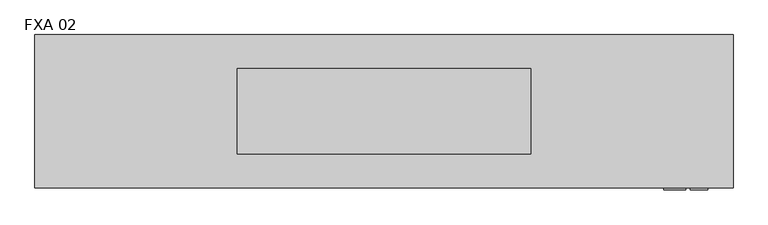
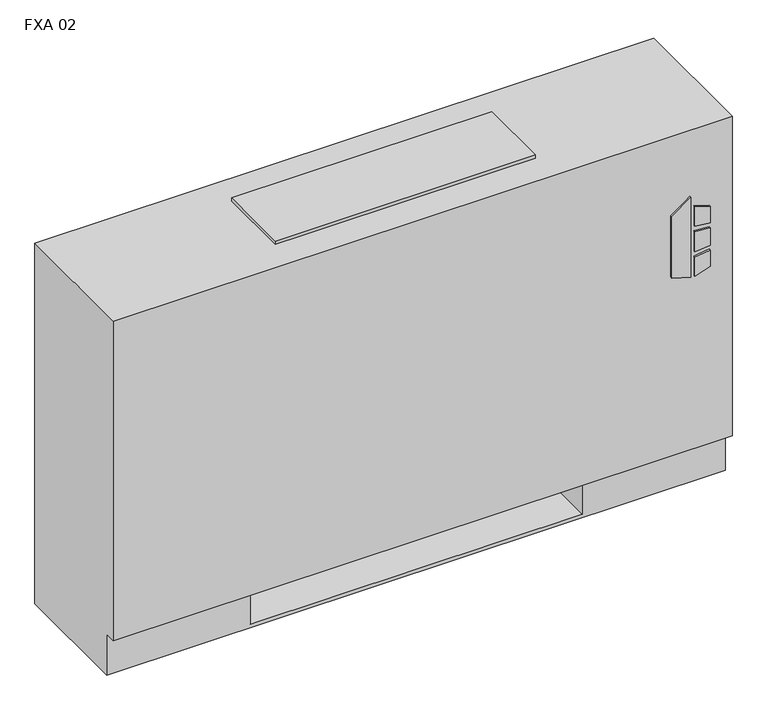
"""IFC4 building model written with IfcOpenShell, lengths in millimetres: proxy geometry, Vertical_Fan_Coil_Unit_-_FXA_-_IEC_-_4-Pipe_TS-FR_RH_2022 : FXA 02."""

from ifc_helpers import new_model, si_unit, point, frame, frame_2d, origin, place, context, project, spatial, polyline, circle_curve, trimmed, segment, composite_curve, outline, extrude, source, transform, mapped, element, save
from ifc_brep_helpers import plane_surface, revolved_surface, advanced_brep


def fxa_02_c29b171d(model_context):
    return source(origin(), model_context, "Body", "SolidModel", [
        extrude(outline(polyline([(391.6086829, 569.9868862), (381.6606126, 602.1602728), (523.831537, 602.1602728), (500.8095309, 569.9868862), (391.6086829, 569.9868862)])), frame((0.0, 12.7, 0.0), z_axis=(0.0, 1.0, 0.0), x_axis=(0.0, 0.0, 1.0)), (0.0, 0.0, 1.0), 3.175),
        extrude(outline(polyline([(470.6079683, 608.9186058), (467.4055757, 635.0), (496.6344168, 635.0), (504.6988318, 608.9186058), (470.6079683, 608.9186058)])), frame((0.0, 12.7, 0.0), z_axis=(0.0, 1.0, 0.0), x_axis=(0.0, 0.0, 1.0)), (0.0, 0.0, 1.0), 3.175),
        extrude(outline(polyline([(418.7444414, 635.0), (415.0789404, 608.9186058), (381.6606126, 608.9186058), (390.2948498, 635.0), (418.7444414, 635.0)])), frame((0.0, 12.7, 0.0), z_axis=(0.0, 1.0, 0.0), x_axis=(0.0, 0.0, 1.0)), (0.0, 0.0, 1.0), 3.175),
        extrude(outline(polyline([(458.0596028, 635.0), (460.3414292, 608.9186058), (424.4038806, 608.9186058), (427.1451456, 635.0), (458.0596028, 635.0)])), frame((0.0, 12.7, 0.0), z_axis=(0.0, 1.0, 0.0), x_axis=(0.0, 0.0, 1.0)), (0.0, 0.0, 1.0), 3.175),
        extrude(outline(polyline([(-247.65, 81.534), (-247.65, 223.266), (-127.0, 223.266), (-127.0, 81.534), (-247.65, 81.534)])), frame((0.0, 0.0, 327.025), z_axis=(0.0, 0.0, 1.0), x_axis=(1.0, 0.0, 0.0)), (0.0, 0.0, 1.0), 260.35),
        extrude(outline(composite_curve([segment(trimmed(circle_curve(frame_2d((495.3, 130.175)), 9.525), [point((485.775, 130.175))], [point((504.825, 130.175))], False, "CARTESIAN"), True, "CONTINUOUS"), segment(trimmed(circle_curve(frame_2d((495.3, 130.175)), 9.525), [point((504.825, 130.175))], [point((485.775, 130.175))], False, "CARTESIAN"), True, "CONTINUOUS")], self_intersect=False)), frame((0.0, 0.0, 101.6), z_axis=(0.0, 0.0, 1.0), x_axis=(1.0, 0.0, 0.0)), (0.0, 0.0, 1.0), 25.4),
        extrude(outline(polyline([(590.55, 196.85), (590.55, 63.5), (431.8, 63.5), (431.8, 196.85), (590.55, 196.85)])), frame((0.0, 0.0, 127.0), z_axis=(0.0, 0.0, 1.0), x_axis=(1.0, 0.0, 0.0)), (0.0, 0.0, 1.0), 50.8),
        extrude(outline(composite_curve([segment(trimmed(circle_curve(frame_2d((117.475, 472.44)), 7.9375), [point((117.475, 480.3775))], [point((117.475, 464.5025))], False, "CARTESIAN"), True, "CONTINUOUS"), segment(trimmed(circle_curve(frame_2d((117.475, 472.44)), 7.9375), [point((117.475, 464.5025))], [point((117.475, 480.3775))], False, "CARTESIAN"), True, "CONTINUOUS")], self_intersect=False)), frame((431.8, 0.0, 0.0), z_axis=(1.0, 0.0, 0.0), x_axis=(0.0, 1.0, 0.0)), (0.0, 0.0, 1.0), 50.8),
        extrude(outline(composite_curve([segment(trimmed(circle_curve(frame_2d((164.0586, 445.897)), 7.9375), [point((164.0586, 453.8345))], [point((164.0586, 437.9595))], False, "CARTESIAN"), True, "CONTINUOUS"), segment(trimmed(circle_curve(frame_2d((164.0586, 445.897)), 7.9375), [point((164.0586, 437.9595))], [point((164.0586, 453.8345))], False, "CARTESIAN"), True, "CONTINUOUS")], self_intersect=False)), frame((431.8, 0.0, 0.0), z_axis=(1.0, 0.0, 0.0), x_axis=(0.0, 1.0, 0.0)), (0.0, 0.0, 1.0), 50.8),
        extrude(outline(composite_curve([segment(trimmed(circle_curve(frame_2d((130.175, 554.99)), 7.9502), [point((130.175, 562.9402))], [point((130.175, 547.0398))], False, "CARTESIAN"), True, "CONTINUOUS"), segment(trimmed(circle_curve(frame_2d((130.175, 554.99)), 7.9502), [point((130.175, 547.0398))], [point((130.175, 562.9402))], False, "CARTESIAN"), True, "CONTINUOUS")], self_intersect=False)), frame((431.8, 0.0, 0.0), z_axis=(1.0, 0.0, 0.0), x_axis=(0.0, 1.0, 0.0)), (0.0, 0.0, 1.0), 50.8),
        extrude(outline(composite_curve([segment(trimmed(circle_curve(frame_2d((53.975, 416.56)), 7.9502), [point((53.975, 424.5102))], [point((53.975, 408.6098))], False, "CARTESIAN"), True, "CONTINUOUS"), segment(trimmed(circle_curve(frame_2d((53.975, 416.56)), 7.9502), [point((53.975, 408.6098))], [point((53.975, 424.5102))], False, "CARTESIAN"), True, "CONTINUOUS")], self_intersect=False)), frame((431.8, 0.0, 0.0), z_axis=(1.0, 0.0, 0.0), x_axis=(0.0, 1.0, 0.0)), (0.0, 0.0, 1.0), 50.8),
        advanced_brep(
        [(673.1, 244.475, 641.35), (-368.3, 244.475, 641.35), (-368.3, 15.875, 641.35), (673.1, 15.875, 641.35), (-368.3, 244.475, 0.0), (673.1, 244.475, 0.0), (673.1, 34.925, 0.0), (-368.3, 34.925, 0.0), (431.8, 244.475, 73.025), (660.4, 244.475, 73.025), (660.4, 244.475, 628.65), (431.8, 244.475, 628.65), (431.8, 244.475, 414.8650565), (460.375, 244.475, 414.8650565), (460.375, 244.475, 385.2349435), (431.8, 244.475, 385.2349435), (431.8, 244.475, 287.3375), (460.375, 244.475, 287.3375), (460.375, 244.475, 258.7625), (431.8, 244.475, 258.7625), (431.8, 244.475, 141.2875), (460.375, 244.475, 141.2875), (460.375, 244.475, 112.7125), (431.8, 244.475, 112.7125), (-127.0, 244.475, 628.65), (-355.6, 244.475, 628.65), (-355.6, 244.475, 73.025), (-127.0, 244.475, 73.025), (-127.0, 244.475, 112.7125), (-155.575, 244.475, 112.7125), (-155.575, 244.475, 141.2875), (-127.0, 244.475, 141.2875), (-127.0, 244.475, 258.7625), (-155.575, 244.475, 258.7625), (-155.575, 244.475, 287.3375), (-127.0, 244.475, 287.3375), (-127.0, 244.475, 385.2349435), (-155.575, 244.475, 385.2349435), (-155.575, 244.475, 414.8650565), (-127.0, 244.475, 414.8650565), (450.0626, 244.475, 127.0), (438.9374, 244.475, 127.0), (450.0626, 244.475, 400.05), (438.9374, 244.475, 400.05), (450.0626, 244.475, 273.05), (438.9374, 244.475, 273.05), (-134.1374, 244.475, 127.0), (-145.2626, 244.475, 127.0), (-134.1374, 244.475, 273.05), (-145.2626, 244.475, 273.05), (-134.1374, 244.475, 400.05), (-145.2626, 244.475, 400.05), (-368.3, 34.925, 73.025), (-368.3, 15.875, 73.025), (673.1, 15.875, 73.025), (673.1, 34.925, 73.025), (-127.0, 34.925, 73.025), (-127.0, 219.075, 73.025), (431.8, 219.075, 73.025), (431.8, 34.925, 73.025), (431.8, 34.925, 6.35), (-127.0, 34.925, 6.35), (431.8, 41.275, 628.65), (660.4, 41.275, 628.65), (660.4, 41.275, 73.025), (431.8, 41.275, 73.025), (-127.0, 41.275, 628.65), (-127.0, 41.275, 73.025), (-355.6, 41.275, 73.025), (-355.6, 41.275, 628.65), (431.8, 219.075, 73.025), (431.8, 238.125, 112.7125), (431.8, 238.125, 141.2875), (431.8, 238.125, 258.7625), (431.8, 238.125, 287.3375), (431.8, 238.125, 385.2349435), (431.8, 238.125, 414.8650565), (-127.0, 219.075, 73.025), (-127.0, 238.125, 414.8650565), (-127.0, 238.125, 385.2349435), (-127.0, 238.125, 287.3375), (-127.0, 238.125, 258.7625), (-127.0, 238.125, 141.2875), (-127.0, 238.125, 112.7125), (-127.0, 219.075, 6.35), (431.8, 219.075, 6.35), (460.375, 238.125, 112.7125), (460.375, 238.125, 141.2875), (438.9374, 238.125, 127.0), (450.0626, 238.125, 127.0), (460.375, 238.125, 258.7625), (460.375, 238.125, 287.3375), (438.9374, 238.125, 273.05), (450.0626, 238.125, 273.05), (460.375, 238.125, 385.2349435), (460.375, 238.125, 414.8650565), (438.9374, 238.125, 400.05), (450.0626, 238.125, 400.05), (-155.575, 238.125, 141.2875), (-155.575, 238.125, 112.7125), (-145.2626, 238.125, 127.0), (-134.1374, 238.125, 127.0), (-155.575, 238.125, 287.3375), (-155.575, 238.125, 258.7625), (-145.2626, 238.125, 273.05), (-134.1374, 238.125, 273.05), (-155.575, 238.125, 414.8650565), (-155.575, 238.125, 385.2349435), (-145.2626, 238.125, 400.05), (-134.1374, 238.125, 400.05)],
        [
            (0, 1),
            (1, 2),
            (2, 3),
            (3, 0),
            (4, 5),
            (5, 6),
            (6, 7),
            (7, 4),
            (0, 5),
            (4, 1),
            (8, 9),
            (9, 10),
            (10, 11),
            (11, 12),
            (12, 13),
            (13, 14),
            (14, 15),
            (15, 16),
            (16, 17),
            (17, 18),
            (18, 19),
            (19, 20),
            (20, 21),
            (21, 22),
            (22, 23),
            (23, 8),
            (24, 25),
            (25, 26),
            (26, 27),
            (27, 28),
            (28, 29),
            (29, 30),
            (30, 31),
            (31, 32),
            (32, 33),
            (33, 34),
            (34, 35),
            (35, 36),
            (36, 37),
            (37, 38),
            (38, 39),
            (39, 24),
            (40, 41, circle_curve(frame((444.5, 244.475, 127.0), z_axis=(0.0, -1.0, 0.0), x_axis=(-1.0, 0.0, 0.0)), 5.5626)),
            (41, 40, circle_curve(frame((444.5, 244.475, 127.0), z_axis=(0.0, -1.0, 0.0), x_axis=(-1.0, 0.0, 0.0)), 5.5626)),
            (42, 43, circle_curve(frame((444.5, 244.475, 400.05), z_axis=(0.0, -1.0, 0.0), x_axis=(-1.0, 0.0, 0.0)), 5.5626)),
            (43, 42, circle_curve(frame((444.5, 244.475, 400.05), z_axis=(0.0, -1.0, 0.0), x_axis=(-1.0, 0.0, 0.0)), 5.5626)),
            (44, 45, circle_curve(frame((444.5, 244.475, 273.05), z_axis=(0.0, -1.0, 0.0), x_axis=(-1.0, 0.0, 0.0)), 5.5626)),
            (45, 44, circle_curve(frame((444.5, 244.475, 273.05), z_axis=(0.0, -1.0, 0.0), x_axis=(-1.0, 0.0, 0.0)), 5.5626)),
            (46, 47, circle_curve(frame((-139.7, 244.475, 127.0), z_axis=(0.0, -1.0, 0.0), x_axis=(-1.0, 0.0, 0.0)), 5.5626)),
            (47, 46, circle_curve(frame((-139.7, 244.475, 127.0), z_axis=(0.0, -1.0, 0.0), x_axis=(-1.0, 0.0, 0.0)), 5.5626)),
            (48, 49, circle_curve(frame((-139.7, 244.475, 273.05), z_axis=(0.0, -1.0, 0.0), x_axis=(-1.0, 0.0, 0.0)), 5.5626)),
            (49, 48, circle_curve(frame((-139.7, 244.475, 273.05), z_axis=(0.0, -1.0, 0.0), x_axis=(-1.0, 0.0, 0.0)), 5.5626)),
            (50, 51, circle_curve(frame((-139.7, 244.475, 400.05), z_axis=(0.0, -1.0, 0.0), x_axis=(-1.0, 0.0, 0.0)), 5.5626)),
            (51, 50, circle_curve(frame((-139.7, 244.475, 400.05), z_axis=(0.0, -1.0, 0.0), x_axis=(-1.0, 0.0, 0.0)), 5.5626)),
            (7, 52),
            (52, 53),
            (53, 2),
            (53, 54),
            (54, 3),
            (54, 55),
            (55, 6),
            (52, 56),
            (56, 57),
            (57, 58),
            (58, 59),
            (59, 55),
            (59, 60),
            (60, 61),
            (61, 56),
            (62, 63),
            (63, 64),
            (64, 65),
            (65, 62),
            (66, 67),
            (67, 68),
            (68, 69),
            (69, 66),
            (65, 70),
            (70, 8),
            (23, 71),
            (71, 72),
            (72, 20),
            (19, 73),
            (73, 74),
            (74, 16),
            (15, 75),
            (75, 76),
            (76, 12),
            (11, 62),
            (64, 9),
            (63, 10),
            (69, 25),
            (24, 66),
            (68, 26),
            (67, 77),
            (77, 27),
            (39, 78),
            (78, 79),
            (79, 36),
            (35, 80),
            (80, 81),
            (81, 32),
            (31, 82),
            (82, 83),
            (83, 28),
            (57, 84),
            (84, 85),
            (85, 58),
            (85, 60),
            (84, 61),
            (71, 86),
            (86, 87),
            (87, 72),
            (88, 89, circle_curve(frame((444.5, 238.125, 127.0), z_axis=(0.0, 1.0, 0.0), x_axis=(-1.0, 0.0, 0.0)), 5.5626)),
            (89, 88, circle_curve(frame((444.5, 238.125, 127.0), z_axis=(0.0, 1.0, 0.0), x_axis=(-1.0, 0.0, 0.0)), 5.5626)),
            (73, 90),
            (90, 91),
            (91, 74),
            (92, 93, circle_curve(frame((444.5, 238.125, 273.05), z_axis=(0.0, 1.0, 0.0), x_axis=(-1.0, 0.0, 0.0)), 5.5626)),
            (93, 92, circle_curve(frame((444.5, 238.125, 273.05), z_axis=(0.0, 1.0, 0.0), x_axis=(-1.0, 0.0, 0.0)), 5.5626)),
            (75, 94),
            (94, 95),
            (95, 76),
            (96, 97, circle_curve(frame((444.5, 238.125, 400.05), z_axis=(0.0, 1.0, 0.0), x_axis=(-1.0, 0.0, 0.0)), 5.5626)),
            (97, 96, circle_curve(frame((444.5, 238.125, 400.05), z_axis=(0.0, 1.0, 0.0), x_axis=(-1.0, 0.0, 0.0)), 5.5626)),
            (98, 99),
            (99, 83),
            (82, 98),
            (100, 101, circle_curve(frame((-139.7, 238.125, 127.0), z_axis=(0.0, 1.0, 0.0), x_axis=(-1.0, 0.0, 0.0)), 5.5626)),
            (101, 100, circle_curve(frame((-139.7, 238.125, 127.0), z_axis=(0.0, 1.0, 0.0), x_axis=(-1.0, 0.0, 0.0)), 5.5626)),
            (102, 103),
            (103, 81),
            (80, 102),
            (104, 105, circle_curve(frame((-139.7, 238.125, 273.05), z_axis=(0.0, 1.0, 0.0), x_axis=(-1.0, 0.0, 0.0)), 5.5626)),
            (105, 104, circle_curve(frame((-139.7, 238.125, 273.05), z_axis=(0.0, 1.0, 0.0), x_axis=(-1.0, 0.0, 0.0)), 5.5626)),
            (106, 107),
            (107, 79),
            (78, 106),
            (108, 109, circle_curve(frame((-139.7, 238.125, 400.05), z_axis=(0.0, 1.0, 0.0), x_axis=(-1.0, 0.0, 0.0)), 5.5626)),
            (109, 108, circle_curve(frame((-139.7, 238.125, 400.05), z_axis=(0.0, 1.0, 0.0), x_axis=(-1.0, 0.0, 0.0)), 5.5626)),
            (87, 21),
            (86, 22),
            (91, 17),
            (90, 18),
            (95, 13),
            (94, 14),
            (30, 98),
            (99, 29),
            (34, 102),
            (103, 33),
            (38, 106),
            (107, 37),
            (88, 41),
            (40, 89),
            (96, 43),
            (42, 97),
            (92, 45),
            (44, 93),
            (100, 47),
            (46, 101),
            (104, 49),
            (48, 105),
            (108, 51),
            (50, 109),
        ],
        [
            plane_surface(frame((-368.3, 244.475, 641.35), z_axis=(0.0, 0.0, 1.0), x_axis=(-1.0, 0.0, 0.0))),
            plane_surface(frame((-368.3, 244.475, 0.0), z_axis=(0.0, 0.0, -1.0), x_axis=(1.0, 0.0, 0.0))),
            plane_surface(frame((673.1, 244.475, 641.35), z_axis=(0.0, 1.0, 0.0), x_axis=(0.0, 0.0, -1.0))),
            plane_surface(frame((-368.3, 244.475, 641.35), z_axis=(-1.0, 0.0, 0.0), x_axis=(0.0, 0.0, -1.0))),
            plane_surface(frame((-368.3, 15.875, 641.35), z_axis=(0.0, -1.0, 0.0), x_axis=(0.0, 0.0, -1.0))),
            plane_surface(frame((673.1, 15.875, 641.35), z_axis=(1.0, 0.0, 0.0), x_axis=(0.0, 0.0, -1.0))),
            plane_surface(frame((-368.3, 15.875, 73.025), z_axis=(0.0, 0.0, -1.0), x_axis=(1.0, 0.0, 0.0))),
            plane_surface(frame((-368.3, 34.925, 73.025), z_axis=(0.0, -1.0, 0.0), x_axis=(1.0, 0.0, 0.0))),
            plane_surface(frame((431.8, 41.275, 628.65), z_axis=(0.0, 1.0, 0.0), x_axis=(0.0, 0.0, -1.0))),
            plane_surface(frame((431.8, 41.275, 628.65), z_axis=(1.0, 0.0, 0.0), x_axis=(0.0, 1.0, 0.0))),
            plane_surface(frame((431.8, 41.275, 73.025), z_axis=(0.0, 0.0, 1.0), x_axis=(0.0, 1.0, 0.0))),
            plane_surface(frame((660.4, 41.275, 73.025), z_axis=(-1.0, 0.0, 0.0), x_axis=(0.0, 1.0, 0.0))),
            plane_surface(frame((660.4, 41.275, 628.65), z_axis=(0.0, 0.0, -1.0), x_axis=(0.0, 1.0, 0.0))),
            plane_surface(frame((-127.0, 41.275, 628.65), z_axis=(0.0, 0.0, -1.0), x_axis=(0.0, 1.0, 0.0))),
            plane_surface(frame((-355.6, 41.275, 628.65), z_axis=(1.0, 0.0, 0.0), x_axis=(0.0, 1.0, 0.0))),
            plane_surface(frame((-355.6, 41.275, 73.025), z_axis=(0.0, 0.0, 1.0), x_axis=(0.0, 1.0, 0.0))),
            plane_surface(frame((-127.0, 41.275, 73.025), z_axis=(-1.0, 0.0, 0.0), x_axis=(0.0, 1.0, 0.0))),
            plane_surface(frame((431.8, 219.075, 73.025), z_axis=(0.0, -1.0, 0.0), x_axis=(0.0, 0.0, -1.0))),
            plane_surface(frame((431.8, 219.075, 73.025), z_axis=(-1.0, 0.0, 0.0), x_axis=(0.0, -1.0, 0.0))),
            plane_surface(frame((431.8, 219.075, 6.35), z_axis=(0.0, 0.0, 1.0), x_axis=(0.0, -1.0, 0.0))),
            plane_surface(frame((-127.0, 219.075, 6.35), z_axis=(1.0, 0.0, 0.0), x_axis=(0.0, -1.0, 0.0))),
            plane_surface(frame((460.375, 238.125, 141.2875), z_axis=(0.0, -1.0, 0.0), x_axis=(-1.0, 0.0, 0.0))),
            plane_surface(frame((431.8, 244.475, 141.2875), z_axis=(0.0, 0.0, 1.0), x_axis=(0.0, -1.0, 0.0))),
            plane_surface(frame((460.375, 244.475, 141.2875), z_axis=(1.0, 0.0, 0.0), x_axis=(0.0, -1.0, 0.0))),
            plane_surface(frame((460.375, 244.475, 112.7125), z_axis=(0.0, 0.0, -1.0), x_axis=(0.0, -1.0, 0.0))),
            plane_surface(frame((431.8, 244.475, 287.3375), z_axis=(0.0, 0.0, 1.0), x_axis=(0.0, -1.0, 0.0))),
            plane_surface(frame((460.375, 244.475, 287.3375), z_axis=(1.0, 0.0, 0.0), x_axis=(0.0, -1.0, 0.0))),
            plane_surface(frame((460.375, 244.475, 258.7625), z_axis=(0.0, 0.0, -1.0), x_axis=(0.0, -1.0, 0.0))),
            plane_surface(frame((431.8, 244.475, 414.8650565), z_axis=(0.0, 0.0, 1.0), x_axis=(0.0, -1.0, 0.0))),
            plane_surface(frame((460.375, 244.475, 414.8650565), z_axis=(1.0, 0.0, 0.0), x_axis=(0.0, -1.0, 0.0))),
            plane_surface(frame((460.375, 244.475, 385.2349435), z_axis=(0.0, 0.0, -1.0), x_axis=(0.0, -1.0, 0.0))),
            plane_surface(frame((-155.575, 244.475, 141.2875), z_axis=(0.0, 0.0, 1.0), x_axis=(0.0, -1.0, 0.0))),
            plane_surface(frame((-127.0, 244.475, 112.7125), z_axis=(0.0, 0.0, -1.0), x_axis=(0.0, -1.0, 0.0))),
            plane_surface(frame((-155.575, 244.475, 112.7125), z_axis=(-1.0, 0.0, 0.0), x_axis=(0.0, -1.0, 0.0))),
            plane_surface(frame((-155.575, 244.475, 287.3375), z_axis=(0.0, 0.0, 1.0), x_axis=(0.0, -1.0, 0.0))),
            plane_surface(frame((-127.0, 244.475, 258.7625), z_axis=(0.0, 0.0, -1.0), x_axis=(0.0, -1.0, 0.0))),
            plane_surface(frame((-155.575, 244.475, 258.7625), z_axis=(-1.0, 0.0, 0.0), x_axis=(0.0, -1.0, 0.0))),
            plane_surface(frame((-155.575, 244.475, 414.8650565), z_axis=(0.0, 0.0, 1.0), x_axis=(0.0, -1.0, 0.0))),
            plane_surface(frame((-127.0, 244.475, 385.2349435), z_axis=(0.0, 0.0, -1.0), x_axis=(0.0, -1.0, 0.0))),
            plane_surface(frame((-155.575, 244.475, 385.2349435), z_axis=(-1.0, 0.0, 0.0), x_axis=(0.0, -1.0, 0.0))),
            revolved_surface(polyline([(438.9374, 238.125, 127.0), (438.9374, 244.475, 127.0)]), (444.5, 244.475, 127.0), (0.0, -1.0, 0.0)),
            revolved_surface(polyline([(438.9374, 238.125, 400.05), (438.9374, 244.475, 400.05)]), (444.5, 244.475, 400.05), (0.0, -1.0, 0.0)),
            revolved_surface(polyline([(438.9374, 238.125, 273.05), (438.9374, 244.475, 273.05)]), (444.5, 244.475, 273.05), (0.0, -1.0, 0.0)),
            revolved_surface(polyline([(-145.2626, 238.125, 127.0), (-145.2626, 244.475, 127.0)]), (-139.7, 244.475, 127.0), (0.0, -1.0, 0.0)),
            revolved_surface(polyline([(-145.2626, 238.125, 273.05), (-145.2626, 244.475, 273.05)]), (-139.7, 244.475, 273.05), (0.0, -1.0, 0.0)),
            revolved_surface(polyline([(-145.2626, 238.125, 400.05), (-145.2626, 244.475, 400.05)]), (-139.7, 244.475, 400.05), (0.0, -1.0, 0.0)),
        ],
        [
            (0, [[1, 2, 3, 4]]),
            (1, [[5, 6, 7, 8]]),
            (2, [[-1, 9, -5, 10], [11, 12, 13, 14, 15, 16, 17, 18, 19, 20, 21, 22, 23, 24, 25, 26], [27, 28, 29, 30, 31, 32, 33, 34, 35, 36, 37, 38, 39, 40, 41, 42], [43, 44], [45, 46], [47, 48], [49, 50], [51, 52], [53, 54]]),
            (3, [[-2, -10, -8, 55, 56, 57]]),
            (4, [[-3, -57, 58, 59]]),
            (5, [[-4, -59, 60, 61, -6, -9]]),
            (6, [[-56, 62, 63, 64, 65, 66, -60, -58]]),
            (7, [[-7, -61, -66, 67, 68, 69, -62, -55]]),
            (8, [[70, 71, 72, 73]]),
            (8, [[74, 75, 76, 77]]),
            (9, [[-73, 78, 79, -26, 80, 81, 82, -22, 83, 84, 85, -18, 86, 87, 88, -14, 89]]),
            (10, [[-72, 90, -11, -79, -78]]),
            (11, [[-71, 91, -12, -90]]),
            (12, [[-70, -89, -13, -91]]),
            (13, [[-77, 92, -27, 93]]),
            (14, [[-76, 94, -28, -92]]),
            (15, [[-75, 95, 96, -29, -94]]),
            (16, [[-74, -93, -42, 97, 98, 99, -38, 100, 101, 102, -34, 103, 104, 105, -30, -96, -95]]),
            (17, [[-64, 106, 107, 108]]),
            (18, [[-108, 109, -67, -65]]),
            (19, [[-107, 110, -68, -109]]),
            (20, [[-106, -63, -69, -110]]),
            (21, [[111, 112, 113, -81], [114, 115]]),
            (21, [[116, 117, 118, -84], [119, 120]]),
            (21, [[121, 122, 123, -87], [124, 125]]),
            (21, [[126, 127, -104, 128], [129, 130]]),
            (21, [[131, 132, -101, 133], [134, 135]]),
            (21, [[136, 137, -98, 138], [139, 140]]),
            (22, [[-113, 141, -23, -82]]),
            (23, [[-112, 142, -24, -141]]),
            (24, [[-111, -80, -25, -142]]),
            (25, [[-118, 143, -19, -85]]),
            (26, [[-117, 144, -20, -143]]),
            (27, [[-116, -83, -21, -144]]),
            (28, [[-123, 145, -15, -88]]),
            (29, [[-122, 146, -16, -145]]),
            (30, [[-121, -86, -17, -146]]),
            (31, [[-128, -103, -33, 147]]),
            (32, [[-127, 148, -31, -105]]),
            (33, [[-126, -147, -32, -148]]),
            (34, [[-133, -100, -37, 149]]),
            (35, [[-132, 150, -35, -102]]),
            (36, [[-131, -149, -36, -150]]),
            (37, [[-138, -97, -41, 151]]),
            (38, [[-137, 152, -39, -99]]),
            (39, [[-136, -151, -40, -152]]),
            (40, [[153, -43, 154, -114]]),
            (40, [[-153, -115, -154, -44]]),
            (41, [[155, -45, 156, -124]]),
            (41, [[-155, -125, -156, -46]]),
            (42, [[157, -47, 158, -119]]),
            (42, [[-157, -120, -158, -48]]),
            (43, [[159, -49, 160, -129]]),
            (43, [[-159, -130, -160, -50]]),
            (44, [[161, -51, 162, -134]]),
            (44, [[-161, -135, -162, -52]]),
            (45, [[163, -53, 164, -139]]),
            (45, [[-163, -140, -164, -54]]),
        ],
    ),
        extrude(outline(polyline([(371.475, 193.675), (371.475, 66.675), (-66.675, 66.675), (-66.675, 193.675), (371.475, 193.675)])), frame((0.0, 0.0, 641.35), z_axis=(0.0, 0.0, 1.0), x_axis=(1.0, 0.0, 0.0)), (0.0, 0.0, 1.0), 6.35),
    ])


if __name__ == "__main__":
    model = new_model("IFC4")
    model_context = context("Model", 3, world=origin())
    ifc_project = project(units=[si_unit("LENGTHUNIT", "METRE", prefix="MILLI")], contexts=[model_context])
    site = spatial("IfcSite", under=ifc_project)
    building = spatial("IfcBuilding", under=site)
    placement = place(None, origin())
    fxa_02_shape = fxa_02_c29b171d(model_context)
    element("IfcBuildingElementProxy", 1, Name="Vertical_Fan_Coil_Unit_-_FXA_-_IEC_-_4-Pipe_TS-FR_RH_2022 : FXA 02", ObjectType="Vertical_Fan_Coil_Unit_-_FXA_-_IEC_-_4-Pipe_TS-FR_RH_2022 : FXA 02", at=placement, inside=building, context=model_context, shape_type="MappedRepresentation", body=[
        mapped(fxa_02_shape, transform((0.0, 0.0, 0.0), x_axis=(1.0, 0.0, 0.0), y_axis=(0.0, 1.0, 0.0), z_axis=(0.0, 0.0, 1.0))),
    ])
    save(model, "model.ifc")
